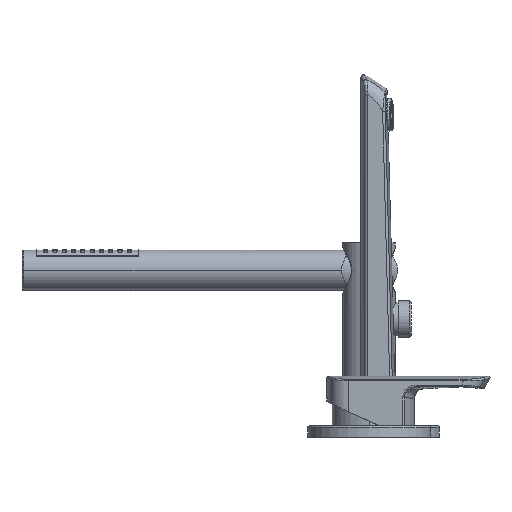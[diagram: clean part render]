
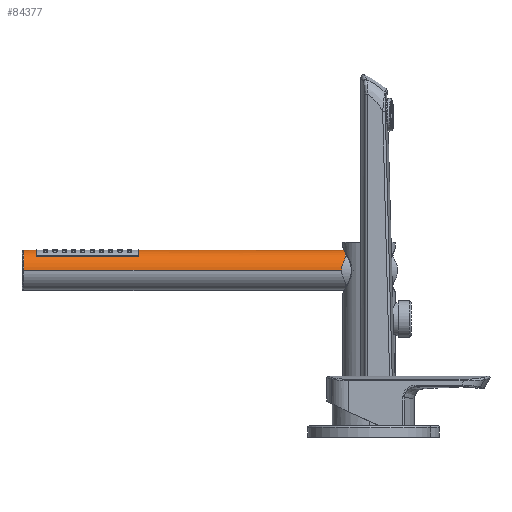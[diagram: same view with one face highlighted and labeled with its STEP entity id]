
A CAD part, left-side view. The second image highlights one B-rep face of the part: STEP entity #84377.
In plain terms, the highlighted cylindrical face has radius 11.5 mm (diameter 23 mm), a partial arc.
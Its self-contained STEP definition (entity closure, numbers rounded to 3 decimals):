
#16 = VERTEX_POINT ( 'NONE', #24342 ) ;
#2103 = EDGE_LOOP ( 'NONE', ( #30948, #2395, #7315, #84348 ) ) ;
#2395 = ORIENTED_EDGE ( 'NONE', *, *, #23419, .T. ) ;
#2823 = EDGE_CURVE ( 'NONE', #87592, #29013, #96355, .T. ) ;
#4407 = FACE_BOUND ( 'NONE', #2103, .T. ) ;
#5444 = VECTOR ( 'NONE', #58021, 1000. ) ;
#7315 = ORIENTED_EDGE ( 'NONE', *, *, #81359, .T. ) ;
#10374 = DIRECTION ( 'NONE',  ( 0., -1., 0. ) ) ;
#14575 = DIRECTION ( 'NONE',  ( 0., 1., 0. ) ) ;
#15377 = EDGE_CURVE ( 'NONE', #85877, #64904, #43674, .T. ) ;
#16361 = CARTESIAN_POINT ( 'NONE',  ( 243.069, 196.97, 152.8 ) ) ;
#19299 = CARTESIAN_POINT ( 'NONE',  ( 234.919, 150.97, 160.913 ) ) ;
#21182 = ORIENTED_EDGE ( 'NONE', *, *, #31308, .T. ) ;
#22145 = CARTESIAN_POINT ( 'NONE',  ( 231.569, 150.97, 152.8 ) ) ;
#23419 = EDGE_CURVE ( 'NONE', #91069, #16, #92358, .T. ) ;
#24342 = CARTESIAN_POINT ( 'NONE',  ( 251.219, 131.27, 160.913 ) ) ;
#24511 = CARTESIAN_POINT ( 'NONE',  ( 234.919, 189.77, 160.913 ) ) ;
#25529 = ORIENTED_EDGE ( 'NONE', *, *, #15377, .T. ) ;
#25543 = DIRECTION ( 'NONE',  ( -1., 0., 0. ) ) ;
#26521 = AXIS2_PLACEMENT_3D ( 'NONE', #70320, #71949, #54732 ) ;
#26615 = CARTESIAN_POINT ( 'NONE',  ( 231.569, 196.97, 152.8 ) ) ;
#27206 = CARTESIAN_POINT ( 'NONE',  ( 251.219, 189.77, 160.913 ) ) ;
#27925 = CARTESIAN_POINT ( 'NONE',  ( 254.569, 196.97, 152.8 ) ) ;
#29013 = VERTEX_POINT ( 'NONE', #26615 ) ;
#30948 = ORIENTED_EDGE ( 'NONE', *, *, #63458, .T. ) ;
#31308 = EDGE_CURVE ( 'NONE', #64904, #87592, #82773, .T. ) ;
#33249 = CARTESIAN_POINT ( 'NONE',  ( 251.219, 150.97, 160.913 ) ) ;
#34930 = LINE ( 'NONE', #19299, #43409 ) ;
#38739 = LINE ( 'NONE', #22145, #46515 ) ;
#38896 = CARTESIAN_POINT ( 'NONE',  ( 234.919, 131.27, 160.913 ) ) ;
#39127 = VECTOR ( 'NONE', #39733, 1000. ) ;
#39733 = DIRECTION ( 'NONE',  ( 0., 1., 0. ) ) ;
#41320 = CARTESIAN_POINT ( 'NONE',  ( 254.569, 150.97, 152.8 ) ) ;
#41450 = DIRECTION ( 'NONE',  ( 0., 1., 0. ) ) ;
#41664 = CARTESIAN_POINT ( 'NONE',  ( 231.569, 13.47, 152.8 ) ) ;
#43409 = VECTOR ( 'NONE', #43457, 1000. ) ;
#43457 = DIRECTION ( 'NONE',  ( 0., 1., 0. ) ) ;
#43674 = CIRCLE ( 'NONE', #26521, 11.5 ) ;
#46515 = VECTOR ( 'NONE', #14575, 1000. ) ;
#47592 = EDGE_LOOP ( 'NONE', ( #25529, #21182, #74981, #90412 ) ) ;
#50069 = CARTESIAN_POINT ( 'NONE',  ( 243.069, 189.77, 152.8 ) ) ;
#51289 = CARTESIAN_POINT ( 'NONE',  ( 243.069, 131.27, 152.8 ) ) ;
#51917 = CARTESIAN_POINT ( 'NONE',  ( 254.569, 13.47, 152.8 ) ) ;
#54732 = DIRECTION ( 'NONE',  ( -1., 0., 0. ) ) ;
#56093 = CARTESIAN_POINT ( 'NONE',  ( 243.069, 150.97, 152.8 ) ) ;
#56806 = CIRCLE ( 'NONE', #73995, 11.5 ) ;
#58021 = DIRECTION ( 'NONE',  ( 0., -1., 0. ) ) ;
#58148 = AXIS2_PLACEMENT_3D ( 'NONE', #51289, #10374, #25543 ) ;
#62014 = FACE_OUTER_BOUND ( 'NONE', #47592, .T. ) ;
#63458 = EDGE_CURVE ( 'NONE', #71791, #91069, #56806, .T. ) ;
#63724 = DIRECTION ( 'NONE',  ( -1., 0., 0. ) ) ;
#64904 = VERTEX_POINT ( 'NONE', #51917 ) ;
#67832 = EDGE_CURVE ( 'NONE', #85877, #29013, #38739, .T. ) ;
#70320 = CARTESIAN_POINT ( 'NONE',  ( 243.069, 13.47, 152.8 ) ) ;
#71687 = DIRECTION ( 'NONE',  ( -1., 0., 0. ) ) ;
#71791 = VERTEX_POINT ( 'NONE', #24511 ) ;
#71949 = DIRECTION ( 'NONE',  ( 0., 1., 0. ) ) ;
#72309 = AXIS2_PLACEMENT_3D ( 'NONE', #16361, #106247, #63724 ) ;
#73995 = AXIS2_PLACEMENT_3D ( 'NONE', #50069, #41450, #97968 ) ;
#74981 = ORIENTED_EDGE ( 'NONE', *, *, #2823, .T. ) ;
#77894 = EDGE_CURVE ( 'NONE', #102067, #71791, #34930, .T. ) ;
#79779 = DIRECTION ( 'NONE',  ( 0., 1., 0. ) ) ;
#81359 = EDGE_CURVE ( 'NONE', #16, #102067, #88953, .T. ) ;
#82773 = LINE ( 'NONE', #41320, #39127 ) ;
#84348 = ORIENTED_EDGE ( 'NONE', *, *, #77894, .T. ) ;
#84377 = ADVANCED_FACE ( 'NONE', ( #4407, #62014 ), #84673, .T. ) ;
#84673 = CYLINDRICAL_SURFACE ( 'NONE', #94285, 11.5 ) ;
#85877 = VERTEX_POINT ( 'NONE', #41664 ) ;
#87592 = VERTEX_POINT ( 'NONE', #27925 ) ;
#88953 = CIRCLE ( 'NONE', #58148, 11.5 ) ;
#90412 = ORIENTED_EDGE ( 'NONE', *, *, #67832, .F. ) ;
#91069 = VERTEX_POINT ( 'NONE', #27206 ) ;
#92358 = LINE ( 'NONE', #33249, #5444 ) ;
#94285 = AXIS2_PLACEMENT_3D ( 'NONE', #56093, #79779, #71687 ) ;
#96355 = CIRCLE ( 'NONE', #72309, 11.5 ) ;
#97968 = DIRECTION ( 'NONE',  ( -1., 0., 0. ) ) ;
#102067 = VERTEX_POINT ( 'NONE', #38896 ) ;
#106247 = DIRECTION ( 'NONE',  ( 0., -1., 0. ) ) ;
